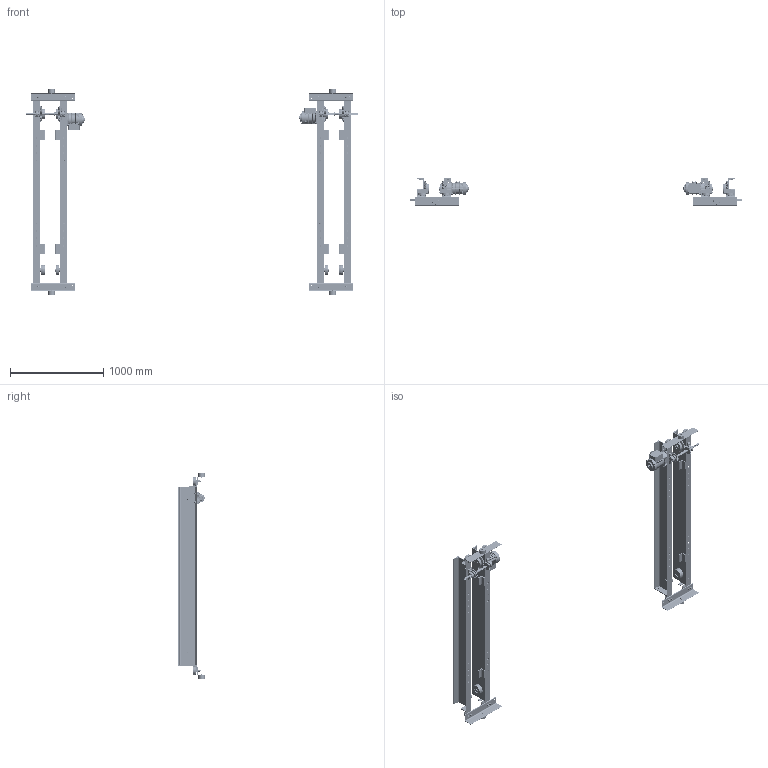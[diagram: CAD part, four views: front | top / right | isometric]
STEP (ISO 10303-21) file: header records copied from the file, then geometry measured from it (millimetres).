
FILE_DESCRIPTION (( 'STEP AP214' ), '1' );
FILE_NAME ('MUML-3-0250.STEP', '2026-08-17T13:43:50', ( '' ), ( '' ), 'SwSTEP 2.0', 'SolidWorks 2026', '' );
FILE_SCHEMA (( 'AUTOMOTIVE_DESIGN' ));
Length unit declared in the file: inch
Products named in the file (79): 9043411; 6232301; MS555010_MS555010; 6232601_6232601; G1JE025S9707; 9012515_9012515; 62588; G1JE025S9401; N6QL210115; 62587; 9093433_9093433; MC08-018.7_75; 6257004; 5204405_5204405; G1JE025S9503; 9012514_9012514; 6232304; 9091250_9091250; 9012712_9012712; 9091254_9091254; 62377_62377-1; 9093427_9093427; N6QL5101101; 9047120_9047120; 6232803_6232803; N6QO310E9108_N6QO3101108 DOMESTIC; 9091273_9091273; G1CM025S_ROTATED 180 DEGREES; 9093101_9093101; N6QL510E9101_Domestic; 9000606; 9093329_9093329; 62378_62378-1; G1JE025S9310; 9000605; G1JE025S9609; 9093146_9093146; 9012709_Rectangular section spring washer BS 4464 - 16 (Type B); G1JE025S9604; 9093424_9093424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
Assembly tree (355 placements, depth 4):
  MUML-3-0250
    62378_62378-1  x2
      62375_62375-1
        MC08-018.7_75
        6232803_6232803
        6232803_6232803
      6232301
      6232304
      5204405_5204405
      6233203
    62377_62377-1
      62374_62374-1
        MC08-018.7_75
        6232803_6232803
        6232803_6232803
      6232301  x2
      6232304  x2
      5204405_5204405  x2
      6233203  x2
      6257004
    62379_62379-1
      62376_62376-1
        MC08-018.7_75
        6232803_6232803
        6232803_6232803
      6232301  x2
      6232304  x2
      5204405_5204405  x2
      6233203  x2
      6257004
    6234701X_6.25" FLANGE  x2
    6234702X_6.25" FLANGE  x2
    N6QL210207  x4
    9012514_9012514  x12
    9093101_9093101  x4
    9093424_9093424  x8
    N6QO3101108_N6QO3101108  x8
      N6QO310E9108_N6QO3101108 DOMESTIC
      9047252_9047252
      9000605
    6232404  x8
    9047125_B27.7M - 3AM1-23  x8
    9012515_9012515  x16
    9093433_9093433  x32
    9093146_9093146  x8
    6234501  x4
      6232601_6232601
      9000606
      9047262_B27.7M - 3BM1-62
    6232401  x8
    9047130_9047130  x8
    N6QL5101101  x4
      N6QL510E9101_Domestic
      9000606
      9047262_B27.7M - 3BM1-62
    N6QL210116  x4
    9012712_9012712  x8
    9043411  x8
    9093354_9093354  x8
    9093427_9093427  x8
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Bounding box: 3563.73 x 292.1 x 2211.61 mm (x, y, z)
Volume: 42782243 mm3; surface area: 9086554.4 mm2
Topology: 374 solids, 470 shells, 25396 faces, 65578 edges, 42178 vertices
Faces by surface type: plane 12374, cylinder 5616, bspline 3746, cone 2606, torus 868, sphere 186
Entity records: 213628 total; most frequent: CARTESIAN_POINT 90669, ORIENTED_EDGE 25470, DIRECTION 22957, EDGE_CURVE 12739, AXIS2_PLACEMENT_3D 8839, VERTEX_POINT 8107, EDGE_LOOP 5488, VECTOR 5279
